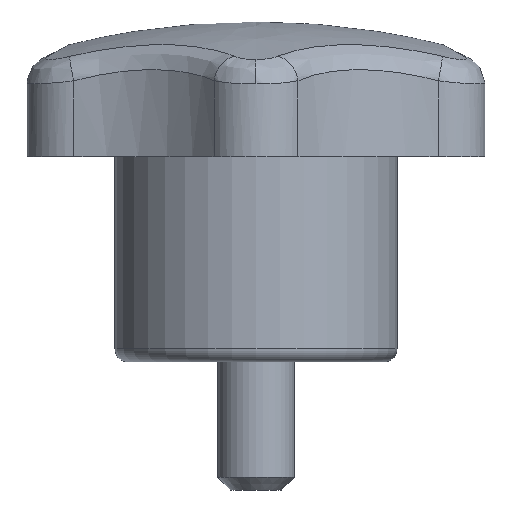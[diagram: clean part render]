
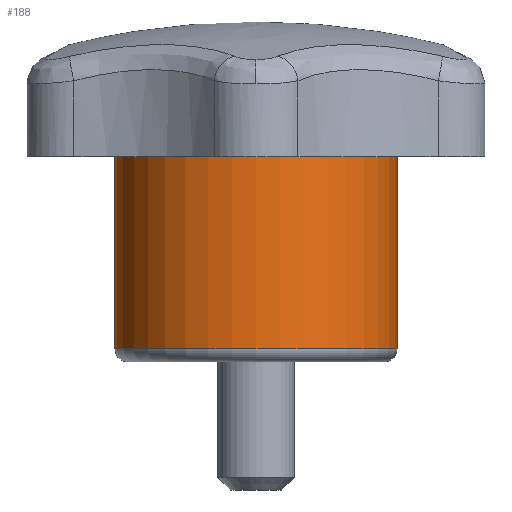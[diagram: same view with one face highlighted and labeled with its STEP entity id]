
A CAD part, left-side view. The second image highlights one B-rep face of the part: STEP entity #188.
In plain terms, the highlighted cylindrical face has radius 11 mm (diameter 22 mm), a full revolution.
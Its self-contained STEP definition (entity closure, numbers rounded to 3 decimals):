
#152=CARTESIAN_POINT('',(-11.,0.,16.));
#153=VERTEX_POINT('',#152);
#154=CARTESIAN_POINT('',(0.,0.,16.));
#155=DIRECTION('',(-1.,0.,0.));
#156=DIRECTION('',(0.,0.,1.));
#157=AXIS2_PLACEMENT_3D('',#154,#156,#155);
#158=CIRCLE('',#157,11.);
#159=EDGE_CURVE('',#153,#153,#158,.T.);
#164=CARTESIAN_POINT('',(0.,0.,16.));
#165=DIRECTION('',(-1.,0.,0.));
#166=DIRECTION('',(0.,0.,-1.));
#167=AXIS2_PLACEMENT_3D('',#164,#166,#165);
#168=CYLINDRICAL_SURFACE('',#167,11.);
#169=CARTESIAN_POINT('',(-11.,0.,1.));
#170=VERTEX_POINT('',#169);
#171=CARTESIAN_POINT('',(-11.,0.,16.));
#172=DIRECTION('',(0.,0.,-1.));
#173=VECTOR('',#172,15.);
#174=LINE('',#171,#173);
#175=EDGE_CURVE('',#153,#170,#174,.T.);
#176=ORIENTED_EDGE('E55',*,*,#175,.T.);
#177=CARTESIAN_POINT('',(0.,0.,1.));
#178=DIRECTION('',(-1.,0.,0.));
#179=DIRECTION('',(0.,0.,1.));
#180=AXIS2_PLACEMENT_3D('',#177,#179,#178);
#181=CIRCLE('',#180,11.);
#182=EDGE_CURVE('',#170,#170,#181,.T.);
#183=ORIENTED_EDGE('E84',*,*,#182,.T.);
#184=ORIENTED_EDGE('E84',*,*,#175,.F.);
#185=ORIENTED_EDGE('E84',*,*,#159,.F.);
#186=EDGE_LOOP('',(#176,#183,#184,#185));
#187=FACE_OUTER_BOUND('',#186,.T.);
#188=ADVANCED_FACE('F50',(#187),#168,.T.);
